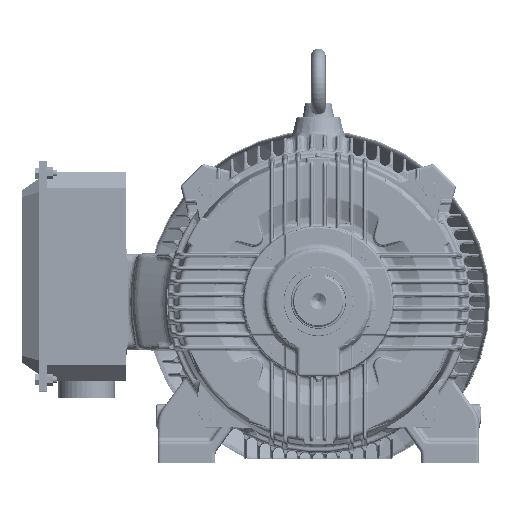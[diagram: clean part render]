
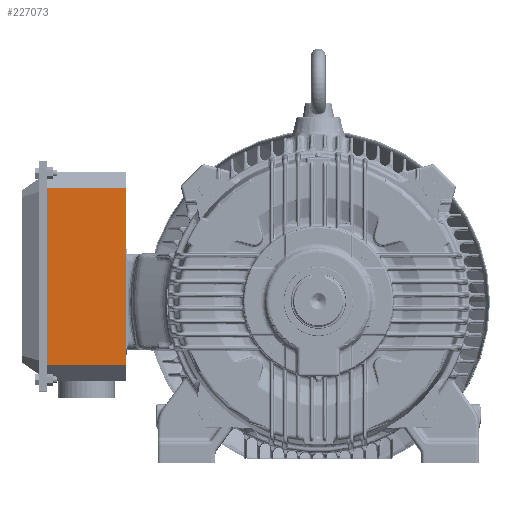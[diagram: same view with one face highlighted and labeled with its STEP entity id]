
A CAD part, top view. The second image highlights one B-rep face of the part: STEP entity #227073.
In plain terms, the highlighted planar face has unit normal (0, 0, 1).
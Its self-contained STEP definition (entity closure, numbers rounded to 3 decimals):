
#3153 = VERTEX_POINT ( 'NONE', #524293 ) ;
#3516 = VECTOR ( 'NONE', #177752, 39.37 ) ;
#25157 = DIRECTION ( 'NONE',  ( 1., 0., 0. ) ) ;
#26602 = VERTEX_POINT ( 'NONE', #426927 ) ;
#41746 = CARTESIAN_POINT ( 'NONE',  ( -13.15, -4.311, 6.358 ) ) ;
#51030 = EDGE_CURVE ( 'NONE', #237542, #413254, #119395, .T. ) ;
#82299 = LINE ( 'NONE', #217516, #241945 ) ;
#85327 = DIRECTION ( 'NONE',  ( 0., 1., 0. ) ) ;
#86342 = ORIENTED_EDGE ( 'NONE', *, *, #536681, .T. ) ;
#119395 = LINE ( 'NONE', #270118, #432485 ) ;
#123535 = CARTESIAN_POINT ( 'NONE',  ( -13.15, 7.776, 6.358 ) ) ;
#139491 = ORIENTED_EDGE ( 'NONE', *, *, #255293, .F. ) ;
#151854 = LINE ( 'NONE', #198629, #221620 ) ;
#169101 = AXIS2_PLACEMENT_3D ( 'NONE', #474386, #291653, #25157 ) ;
#177752 = DIRECTION ( 'NONE',  ( 1., 0., 0. ) ) ;
#178407 = EDGE_CURVE ( 'NONE', #3153, #26602, #421053, .T. ) ;
#198629 = CARTESIAN_POINT ( 'NONE',  ( -18.583, -6.102, 6.358 ) ) ;
#206046 = PLANE ( 'NONE',  #169101 ) ;
#217516 = CARTESIAN_POINT ( 'NONE',  ( -13.15, -6.102, 6.358 ) ) ;
#221620 = VECTOR ( 'NONE', #560350, 39.37 ) ;
#227073 = ADVANCED_FACE ( 'NONE', ( #557728 ), #206046, .T. ) ;
#237542 = VERTEX_POINT ( 'NONE', #123535 ) ;
#241945 = VECTOR ( 'NONE', #85327, 39.37 ) ;
#255293 = EDGE_CURVE ( 'NONE', #3153, #413254, #151854, .T. ) ;
#270118 = CARTESIAN_POINT ( 'NONE',  ( -18.583, 7.776, 6.358 ) ) ;
#291653 = DIRECTION ( 'NONE',  ( 0., 0., 1. ) ) ;
#408268 = CARTESIAN_POINT ( 'NONE',  ( -18.583, 7.776, 6.358 ) ) ;
#413254 = VERTEX_POINT ( 'NONE', #408268 ) ;
#421053 = LINE ( 'NONE', #41746, #3516 ) ;
#426927 = CARTESIAN_POINT ( 'NONE',  ( -13.15, -4.311, 6.358 ) ) ;
#432485 = VECTOR ( 'NONE', #538553, 39.37 ) ;
#453865 = ORIENTED_EDGE ( 'NONE', *, *, #178407, .T. ) ;
#474386 = CARTESIAN_POINT ( 'NONE',  ( -18.583, -6.102, 6.358 ) ) ;
#524293 = CARTESIAN_POINT ( 'NONE',  ( -18.583, -4.311, 6.358 ) ) ;
#535717 = ORIENTED_EDGE ( 'NONE', *, *, #51030, .T. ) ;
#536681 = EDGE_CURVE ( 'NONE', #26602, #237542, #82299, .T. ) ;
#538553 = DIRECTION ( 'NONE',  ( -1., 0., 0. ) ) ;
#557728 = FACE_OUTER_BOUND ( 'NONE', #561758, .T. ) ;
#560350 = DIRECTION ( 'NONE',  ( 0., 1., 0. ) ) ;
#561758 = EDGE_LOOP ( 'NONE', ( #139491, #453865, #86342, #535717 ) ) ;
